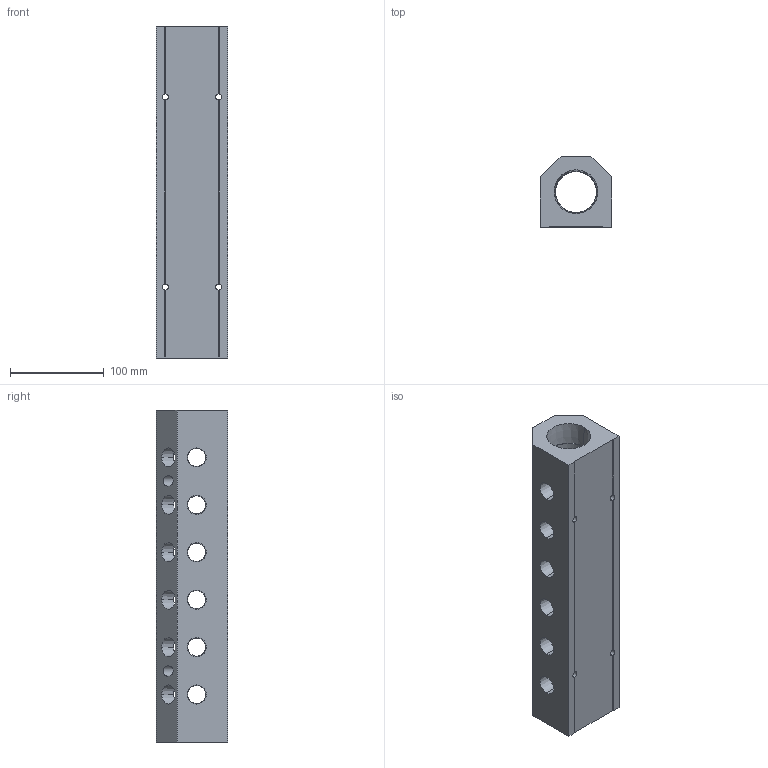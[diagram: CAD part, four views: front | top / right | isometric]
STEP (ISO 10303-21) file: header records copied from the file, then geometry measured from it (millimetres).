
FILE_DESCRIPTION (( 'STEP AP214' ), '1' );
FILE_NAME ('ALM6ABCDE-N8N24-355R.step', '2022-02-07T09:23:25', ( '' ), ( '' ), 'SwSTEP 2.0', 'SolidWorks 2020', '' );
FILE_SCHEMA (( 'AUTOMOTIVE_DESIGN' ));
Length unit declared in the file: millimetre
Products named in the file (1): ALM6ABCDE-N8N24-355R
Bounding box: 76.2 x 76.2 x 355 mm (x, y, z)
Volume: 1160463.7 mm3; surface area: 175156.2 mm2
Topology: 1 solids, 1 shells, 414 faces, 1204 edges, 800 vertices
Faces by surface type: plane 234, bspline 92, cone 64, cylinder 24
Entity records: 25893 total; most frequent: CARTESIAN_POINT 11755, ORIENTED_EDGE 2408, DIRECTION 1590, EDGE_CURVE 1204, VERTEX_POINT 800, LINE 752, VECTOR 752, EDGE_LOOP 492
